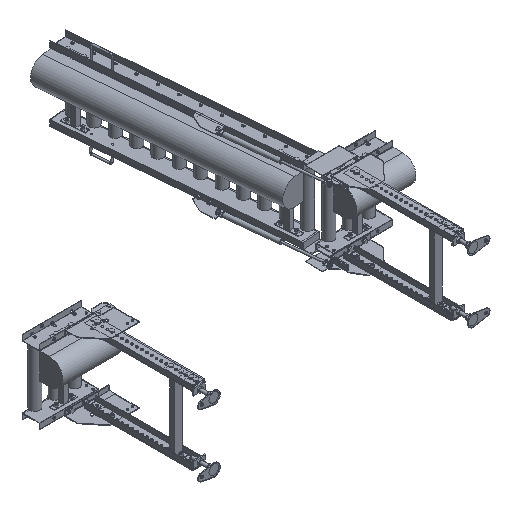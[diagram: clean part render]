
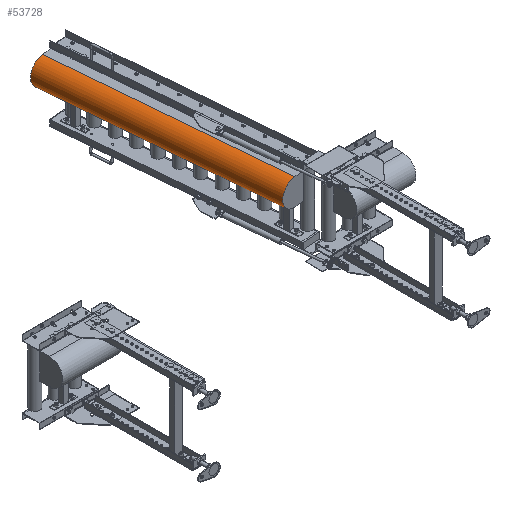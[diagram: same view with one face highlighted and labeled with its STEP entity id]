
A CAD part, isometric view. The second image highlights one B-rep face of the part: STEP entity #53728.
In plain terms, the highlighted cylindrical face has radius 66.89 mm (diameter 133.78 mm), a partial arc.
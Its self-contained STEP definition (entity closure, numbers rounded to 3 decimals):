
#3924 = DIRECTION ( 'NONE',  ( 0.087, -0.996, 0. ) ) ;
#4562 = ORIENTED_EDGE ( 'NONE', *, *, #13785, .T. ) ;
#4850 = DIRECTION ( 'NONE',  ( 0.087, -0.996, 0. ) ) ;
#7146 = CIRCLE ( 'NONE', #20953, 66.89 ) ;
#8573 = DIRECTION ( 'NONE',  ( -0.087, 0.996, 0. ) ) ;
#9071 = VERTEX_POINT ( 'NONE', #37973 ) ;
#12129 = EDGE_CURVE ( 'NONE', #16481, #9071, #23636, .T. ) ;
#13785 = EDGE_CURVE ( 'NONE', #74187, #21773, #7146, .T. ) ;
#15267 = CARTESIAN_POINT ( 'NONE',  ( -190.216, 1196.047, 25.72 ) ) ;
#15925 = CARTESIAN_POINT ( 'NONE',  ( -71.797, -158.438, 159.5 ) ) ;
#16481 = VERTEX_POINT ( 'NONE', #30560 ) ;
#16568 = EDGE_CURVE ( 'NONE', #9071, #21773, #45666, .T. ) ;
#20953 = AXIS2_PLACEMENT_3D ( 'NONE', #27600, #4850, #73864 ) ;
#21417 = DIRECTION ( 'NONE',  ( 0., 0., 1. ) ) ;
#21773 = VERTEX_POINT ( 'NONE', #15267 ) ;
#21872 = FACE_OUTER_BOUND ( 'NONE', #56147, .T. ) ;
#23426 = ORIENTED_EDGE ( 'NONE', *, *, #42815, .T. ) ;
#23636 = CIRCLE ( 'NONE', #64514, 66.89 ) ;
#27600 = CARTESIAN_POINT ( 'NONE',  ( -190.216, 1196.047, 92.61 ) ) ;
#28767 = ORIENTED_EDGE ( 'NONE', *, *, #12129, .F. ) ;
#30560 = CARTESIAN_POINT ( 'NONE',  ( -87.269, 18.539, 159.5 ) ) ;
#37065 = ORIENTED_EDGE ( 'NONE', *, *, #16568, .F. ) ;
#37973 = CARTESIAN_POINT ( 'NONE',  ( -87.269, 18.539, 25.72 ) ) ;
#42815 = EDGE_CURVE ( 'NONE', #16481, #74187, #53327, .T. ) ;
#43591 = CYLINDRICAL_SURFACE ( 'NONE', #69866, 66.89 ) ;
#45666 = LINE ( 'NONE', #60909, #74565 ) ;
#50455 = DIRECTION ( 'NONE',  ( 0., 0., -1. ) ) ;
#51527 = VECTOR ( 'NONE', #56338, 1000. ) ;
#53327 = LINE ( 'NONE', #15925, #51527 ) ;
#53728 = ADVANCED_FACE ( 'NONE', ( #21872 ), #43591, .T. ) ;
#55551 = CARTESIAN_POINT ( 'NONE',  ( -71.797, -158.438, 92.61 ) ) ;
#56147 = EDGE_LOOP ( 'NONE', ( #28767, #23426, #4562, #37065 ) ) ;
#56209 = CARTESIAN_POINT ( 'NONE',  ( -190.216, 1196.047, 159.5 ) ) ;
#56338 = DIRECTION ( 'NONE',  ( -0.087, 0.996, 0. ) ) ;
#60909 = CARTESIAN_POINT ( 'NONE',  ( -71.797, -158.438, 25.72 ) ) ;
#61098 = CARTESIAN_POINT ( 'NONE',  ( -87.269, 18.539, 92.61 ) ) ;
#64514 = AXIS2_PLACEMENT_3D ( 'NONE', #61098, #3924, #50455 ) ;
#69866 = AXIS2_PLACEMENT_3D ( 'NONE', #55551, #72754, #21417 ) ;
#72754 = DIRECTION ( 'NONE',  ( -0.087, 0.996, 0. ) ) ;
#73864 = DIRECTION ( 'NONE',  ( 0., 0., 1. ) ) ;
#74187 = VERTEX_POINT ( 'NONE', #56209 ) ;
#74565 = VECTOR ( 'NONE', #8573, 1000. ) ;
